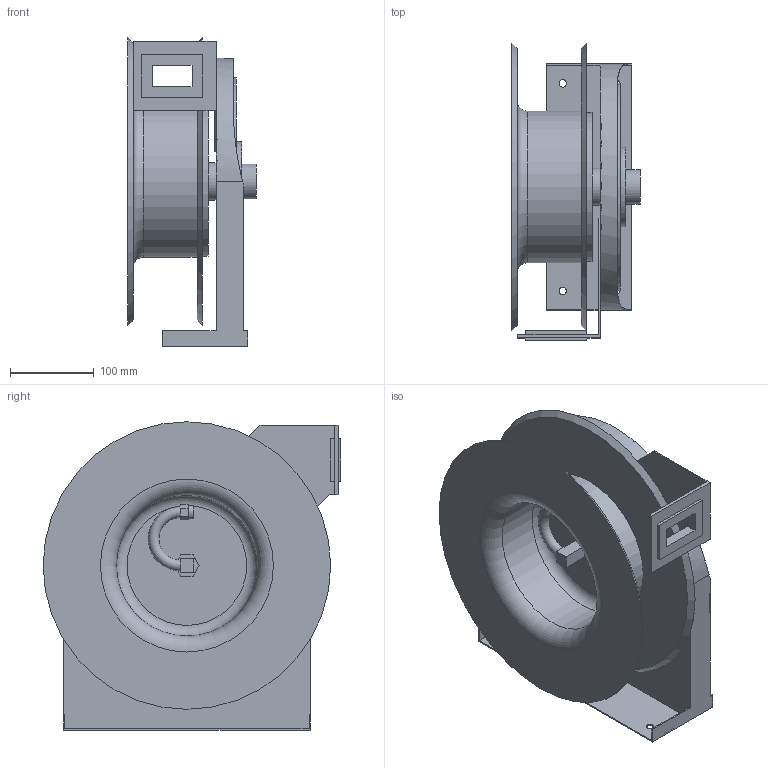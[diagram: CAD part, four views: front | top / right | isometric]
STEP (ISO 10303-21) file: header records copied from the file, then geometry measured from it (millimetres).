
FILE_DESCRIPTION( ( 'Unknown' ), '1' );
FILE_NAME( 'J:/NPD/RE 12893 3D WEB MODELS/5000 SERIES/5000 OXP SW.stp', 'Unknown', ( 'Unknown' ), ( 'Unknown' ), 'PSStep 10.1', 'Unknown', ' ' );
FILE_SCHEMA( ( 'AUTOMOTIVE_DESIGN { 1 0 10303 214 1 1 1 1 }' ) );
Length unit declared in the file: millimetre
Products named in the file (1): 1
Bounding box: 153.11 x 355.07 x 367.84 mm (x, y, z)
Volume: 2897841.1 mm3; surface area: 765089.2 mm2
Topology: 1 solids, 1 shells, 114 faces, 273 edges, 178 vertices
Faces by surface type: plane 87, cylinder 19, cone 4, torus 4
Full cylindrical faces by diameter (mm): 8.712 x4, 11.862 x1, 15.281 x1, 15.875 x1, 25.4 x1, 41.275 x1, 44.45 x1, 95.25 x1, 168.148 x1, 177.8 x1, 180.848 x1, 247.65 x1
Entity records: 4086 total; most frequent: CARTESIAN_POINT 585, DIRECTION 528, ORIENTED_EDGE 482, EDGE_CURVE 241, AXIS2_PLACEMENT_3D 176, LINE 176, VECTOR 176, VERTEX_POINT 169
